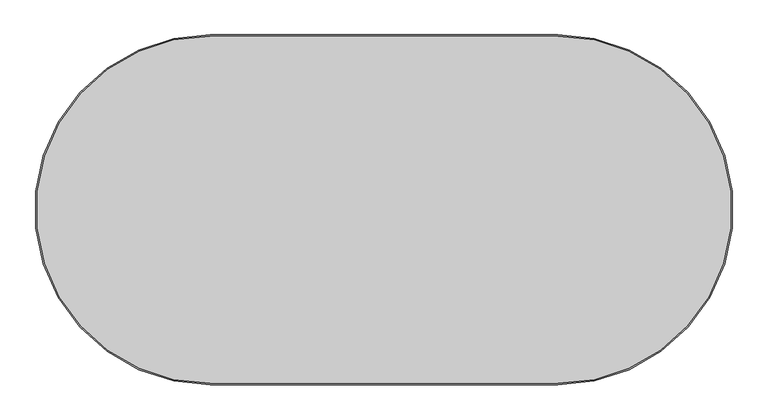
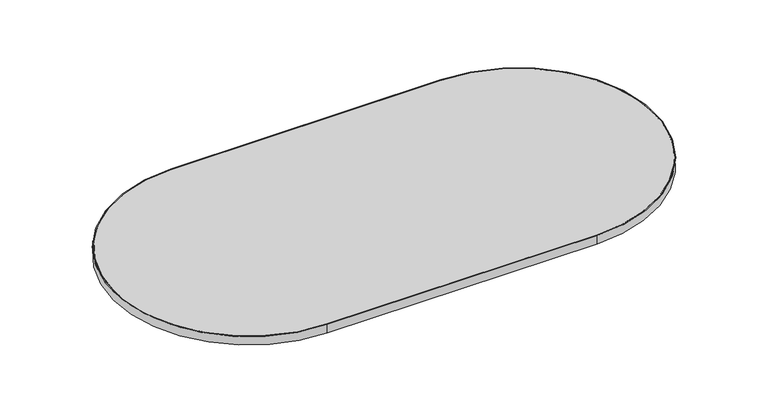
"""IFC4 building model written with IfcOpenShell, lengths in millimetres: furniture geometry, Steelcase - Answer Solution - Universal Table - Capsule - 3mm Edge : 36D x 72W."""

from ifc_helpers import new_model, si_unit, point, frame, frame_2d, origin, place, context, project, spatial, polyline, circle_curve, trimmed, segment, composite_curve, outline, extrude, source, transform, mapped, element, save


def furniture_ec0194f2(model_context):
    return source(origin(), model_context, "Body", "SweptSolid", [
        extrude(outline(composite_curve([segment(trimmed(circle_curve(frame_2d((457.2, 0.0)), 460.2), [point((457.2, 460.2))], [point((457.2, -460.2))], False, "CARTESIAN"), True, "CONTINUOUS"), segment(polyline([(457.2, -460.2), (-457.2, -460.2)]), True, "CONTINUOUS"), segment(trimmed(circle_curve(frame_2d((-457.2, 0.0)), 460.2), [point((-457.2, -460.2))], [point((-457.2, 460.2))], False, "CARTESIAN"), True, "CONTINUOUS"), segment(polyline([(-457.2, 460.2), (457.2, 460.2)]), True, "CONTINUOUS")], self_intersect=False), holes=[composite_curve([segment(trimmed(circle_curve(frame_2d((-457.2, 0.0)), 457.2), [point((-457.2, 457.2))], [point((-457.2, -457.2))], True, "CARTESIAN"), True, "CONTINUOUS"), segment(polyline([(-457.2, -457.2), (457.2, -457.2)]), True, "CONTINUOUS"), segment(trimmed(circle_curve(frame_2d((457.2, 0.0)), 457.2), [point((457.2, -457.2))], [point((457.2, 457.2))], True, "CARTESIAN"), True, "CONTINUOUS"), segment(polyline([(457.2, 457.2), (-457.2, 457.2)]), True, "CONTINUOUS")], self_intersect=False)]), frame((0.0, 0.0, 668.274), z_axis=(0.0, 0.0, 1.0), x_axis=(1.0, 0.0, 0.0)), (0.0, 0.0, 1.0), 30.0990349),
        extrude(outline(composite_curve([segment(polyline([(-457.2, 457.2), (457.2, 457.2)]), True, "CONTINUOUS"), segment(trimmed(circle_curve(frame_2d((457.2, 0.0)), 457.2), [point((457.2, 457.2))], [point((457.2, -457.2))], False, "CARTESIAN"), True, "CONTINUOUS"), segment(polyline([(457.2, -457.2), (-457.2, -457.2)]), True, "CONTINUOUS"), segment(trimmed(circle_curve(frame_2d((-457.2, 0.0)), 457.2), [point((-457.2, -457.2))], [point((-457.2, 457.2))], False, "CARTESIAN"), True, "CONTINUOUS")], self_intersect=False)), frame((0.0, 0.0, 668.274), z_axis=(0.0, 0.0, 1.0), x_axis=(1.0, 0.0, 0.0)), (0.0, 0.0, 1.0), 30.0990349),
    ])


if __name__ == "__main__":
    model = new_model("IFC4")
    model_context = context("Model", 3, world=origin())
    ifc_project = project(units=[si_unit("LENGTHUNIT", "METRE", prefix="MILLI")], contexts=[model_context])
    site = spatial("IfcSite", under=ifc_project)
    building = spatial("IfcBuilding", under=site)
    placement = place(None, origin())
    furniture_shape = furniture_ec0194f2(model_context)
    element("IfcFurniture", 1, ObjectType="Steelcase - Answer Solution - Universal Table - Capsule - 3mm Edge : 36D x 72W", at=placement, inside=building, context=model_context, shape_type="MappedRepresentation", body=[
        mapped(furniture_shape, transform((0.0, 0.0, 0.0), x_axis=(1.0, 0.0, 0.0), y_axis=(0.0, 1.0, 0.0), z_axis=(0.0, 0.0, 1.0))),
    ])
    save(model, "model.ifc")
